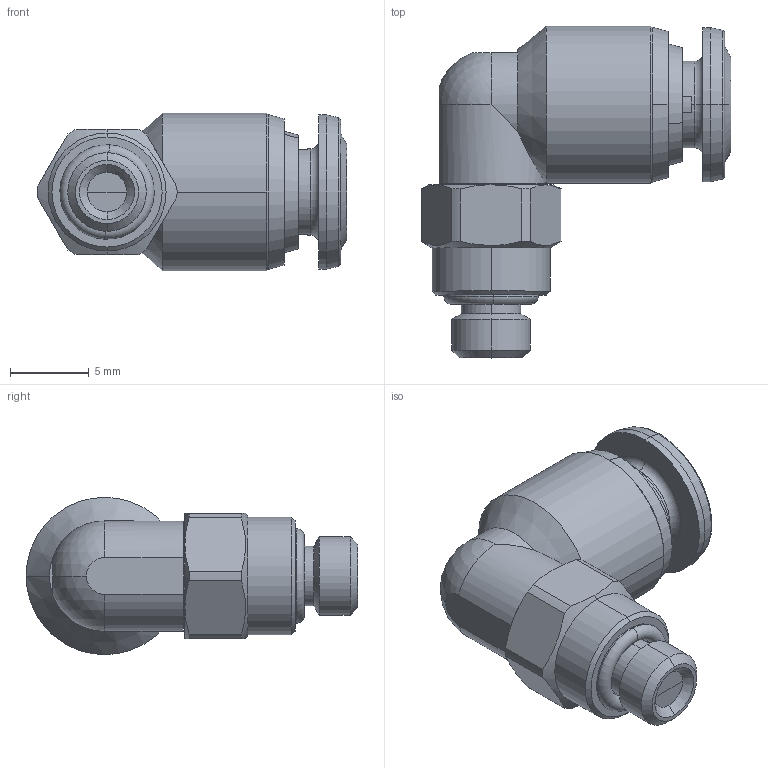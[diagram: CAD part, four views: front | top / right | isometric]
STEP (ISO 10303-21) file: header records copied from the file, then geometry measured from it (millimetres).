
FILE_DESCRIPTION (( 'STEP AP203' ), '1' );
FILE_NAME ('60115X0012.STEP', '2023-05-12T11:23:54', ( '' ), ( '' ), 'SwSTEP 2.0', 'SolidWorks 2020', '' );
FILE_SCHEMA (( 'CONFIG_CONTROL_DESIGN' ));
Length unit declared in the file: millimetre
Products named in the file (1): 60115X0012
Bounding box: 19.7 x 21.1 x 10 mm (x, y, z)
Volume: 1542.9 mm3; surface area: 1073.3 mm2
Topology: 1 solids, 1 shells, 103 faces, 237 edges, 143 vertices
Faces by surface type: cone 32, plane 28, cylinder 27, torus 14, sphere 2
Entity records: 3068 total; most frequent: CARTESIAN_POINT 616, DIRECTION 551, ORIENTED_EDGE 466, AXIS2_PLACEMENT_3D 238, EDGE_CURVE 233, VERTEX_POINT 143, CIRCLE 134, EDGE_LOOP 114
